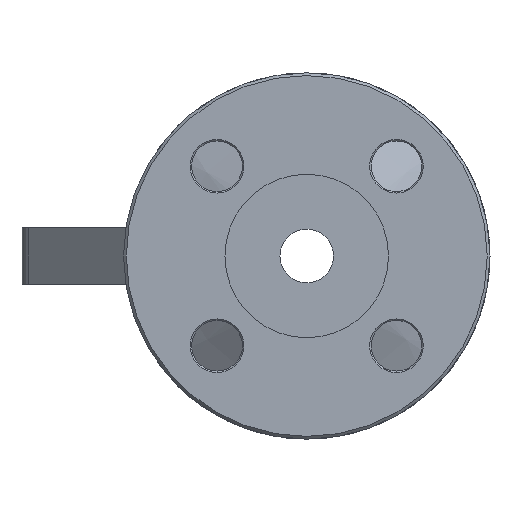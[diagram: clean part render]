
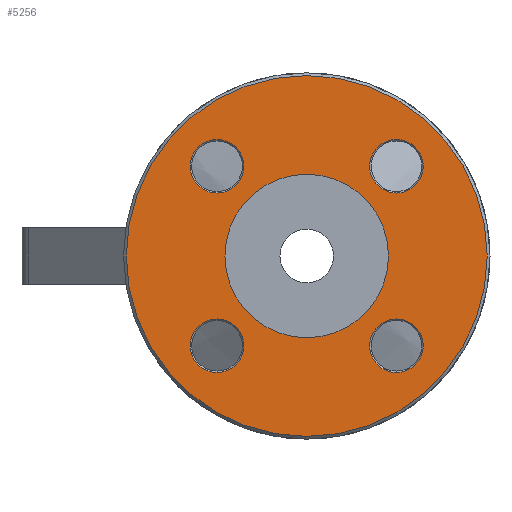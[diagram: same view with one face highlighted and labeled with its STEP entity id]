
A CAD part, left-side view. The second image highlights one B-rep face of the part: STEP entity #5256.
In plain terms, the highlighted planar face has unit normal (-1, 0, 0).
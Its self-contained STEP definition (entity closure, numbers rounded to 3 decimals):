
#5161=CARTESIAN_POINT('',(-108.,-41.32,-31.82));
#5162=VERTEX_POINT('',#5161);
#5163=CARTESIAN_POINT('',(-108.,-31.82,-31.82));
#5164=DIRECTION('',(-1.0,0.0,0.0));
#5165=DIRECTION('',(0.0,1.0,0.0));
#5166=AXIS2_PLACEMENT_3D('',#5163,#5164,#5165);
#5167=CIRCLE('',#5166,9.5);
#5168=EDGE_CURVE('',#5162,#5162,#5167,.T.);
#5193=CARTESIAN_POINT('',(-108.,-46.5,0.0));
#5194=DIRECTION('',(-1.0,0.0,0.0));
#5195=DIRECTION('',(0.0,0.0,1.0));
#5196=AXIS2_PLACEMENT_3D('',#5193,#5194,#5195);
#5197=PLANE('',#5196);
#5198=CARTESIAN_POINT('',(-108.,-64.,0.0));
#5199=VERTEX_POINT('',#5198);
#5200=CARTESIAN_POINT('',(-108.,0.0,0.0));
#5201=DIRECTION('',(1.0,0.0,0.0));
#5202=DIRECTION('',(0.0,-1.0,0.0));
#5203=AXIS2_PLACEMENT_3D('',#5200,#5201,#5202);
#5204=CIRCLE('',#5203,64.);
#5205=EDGE_CURVE('',#5199,#5199,#5204,.T.);
#5206=ORIENTED_EDGE('',*,*,#5205,.F.);
#5207=EDGE_LOOP('',(#5206));
#5208=FACE_OUTER_BOUND('',#5207,.T.);
#5209=CARTESIAN_POINT('',(-108.,-31.82,41.32));
#5210=VERTEX_POINT('',#5209);
#5211=CARTESIAN_POINT('',(-108.,-31.82,31.82));
#5212=DIRECTION('',(-1.0,0.0,0.0));
#5213=DIRECTION('',(0.0,0.0,-1.0));
#5214=AXIS2_PLACEMENT_3D('',#5211,#5212,#5213);
#5215=CIRCLE('',#5214,9.5);
#5216=EDGE_CURVE('',#5210,#5210,#5215,.T.);
#5217=ORIENTED_EDGE('',*,*,#5216,.F.);
#5218=EDGE_LOOP('',(#5217));
#5219=FACE_BOUND('',#5218,.T.);
#5220=CARTESIAN_POINT('',(-108.,31.82,-41.32));
#5221=VERTEX_POINT('',#5220);
#5222=CARTESIAN_POINT('',(-108.,31.82,-31.82));
#5223=DIRECTION('',(-1.0,0.0,0.0));
#5224=DIRECTION('',(0.0,0.0,1.0));
#5225=AXIS2_PLACEMENT_3D('',#5222,#5223,#5224);
#5226=CIRCLE('',#5225,9.5);
#5227=EDGE_CURVE('',#5221,#5221,#5226,.T.);
#5228=ORIENTED_EDGE('',*,*,#5227,.F.);
#5229=EDGE_LOOP('',(#5228));
#5230=FACE_BOUND('',#5229,.T.);
#5231=CARTESIAN_POINT('',(-108.,-29.,0.0));
#5232=VERTEX_POINT('',#5231);
#5233=CARTESIAN_POINT('',(-108.,0.0,0.0));
#5234=DIRECTION('',(1.0,0.0,0.0));
#5235=DIRECTION('',(0.0,-1.0,0.0));
#5236=AXIS2_PLACEMENT_3D('',#5233,#5234,#5235);
#5237=CIRCLE('',#5236,29.);
#5238=EDGE_CURVE('',#5232,#5232,#5237,.T.);
#5239=ORIENTED_EDGE('',*,*,#5238,.T.);
#5240=EDGE_LOOP('',(#5239));
#5241=FACE_BOUND('',#5240,.T.);
#5242=CARTESIAN_POINT('',(-108.,41.32,31.82));
#5243=VERTEX_POINT('',#5242);
#5244=CARTESIAN_POINT('',(-108.,31.82,31.82));
#5245=DIRECTION('',(-1.0,0.0,0.0));
#5246=DIRECTION('',(0.0,-1.0,0.0));
#5247=AXIS2_PLACEMENT_3D('',#5244,#5245,#5246);
#5248=CIRCLE('',#5247,9.5);
#5249=EDGE_CURVE('',#5243,#5243,#5248,.T.);
#5250=ORIENTED_EDGE('',*,*,#5249,.F.);
#5251=EDGE_LOOP('',(#5250));
#5252=FACE_BOUND('',#5251,.T.);
#5253=ORIENTED_EDGE('',*,*,#5168,.F.);
#5254=EDGE_LOOP('',(#5253));
#5255=FACE_BOUND('',#5254,.T.);
#5256=ADVANCED_FACE('',(#5208,#5219,#5230,#5241,#5252,#5255),#5197,.T.);
